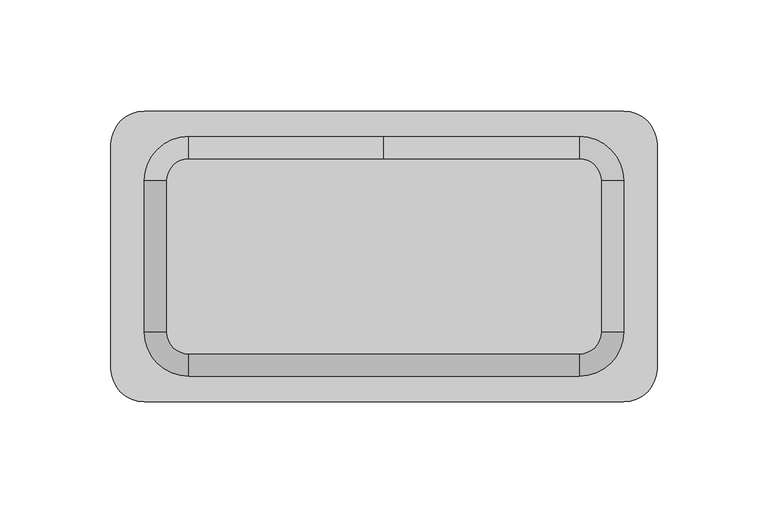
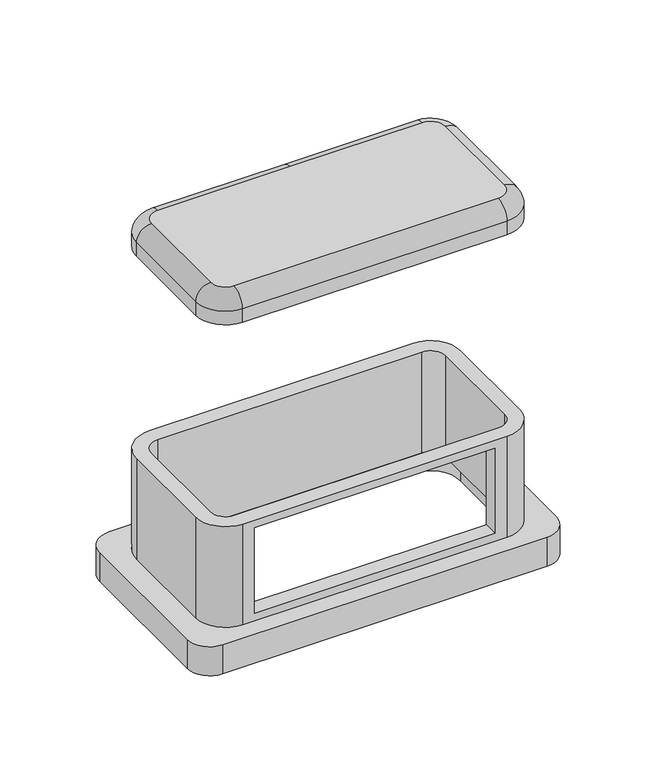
"""IFC4 building model written with IfcOpenShell, lengths in millimetres: proxy geometry, КНС_НапольнаяДвухсторонняяБашенкаBUS_ILF_DKC : Напольная двухсторонняя башенка BUS_ILF_DKC."""

from ifc_helpers import new_model, si_unit, point, frame, frame_2d, origin, origin_with_axes, place, context, project, spatial, polyline, circle_curve, ellipse_curve, trimmed, segment, composite_curve, outline, extrude, source, transform, mapped, element, save
from ifc_brep_helpers import plane_surface, cylinder_surface, revolved_surface, advanced_brep


def electrical_fixtures_5cea76de(model_context):
    return source(origin(), model_context, "Body", "SolidModel", [
        advanced_brep(
        [(88.0, 54.0, 91.5), (-88.0, 54.0, 91.5), (-108.0, 34.0, 91.5), (-108.0, -34.0, 91.5), (-88.0, -54.0, 91.5), (88.0, -54.0, 91.5), (108.0, -34.0, 91.5), (108.0, 34.0, 91.5), (88.0, 44.0, 91.5), (98.0, 34.0, 91.5), (98.0, -34.0, 91.5), (88.0, -44.0, 91.5), (-88.0, -44.0, 91.5), (-98.0, -34.0, 91.5), (-98.0, 34.0, 91.5), (-88.0, 44.0, 91.5), (88.0, 54.0, 20.5), (108.0, 34.0, 20.5), (108.0, -34.0, 20.5), (88.0, -54.0, 20.5), (-88.0, -54.0, 20.5), (-108.0, -34.0, 20.5), (-108.0, 34.0, 20.5), (-88.0, 54.0, 20.5), (88.0, 44.0, 20.5), (-88.0, 44.0, 20.5), (-98.0, 34.0, 20.5), (-98.0, -34.0, 20.5), (-88.0, -44.0, 20.5), (88.0, -44.0, 20.5), (98.0, -34.0, 20.5), (98.0, 34.0, 20.5), (-80.0, -54.0, 86.0), (80.0, -54.0, 86.0), (80.0, -54.0, 26.0), (-80.0, -54.0, 26.0), (80.0, -44.0, 86.0), (-80.0, -44.0, 86.0), (-80.0, -44.0, 26.0), (80.0, -44.0, 26.0)],
        [
            (0, 1),
            (1, 2, circle_curve(frame((-88.0, 34.0, 91.5), z_axis=(0.0, 0.0, 1.0), x_axis=(1.0, 0.0, 0.0)), 20.0)),
            (2, 3),
            (3, 4, circle_curve(frame((-88.0, -34.0, 91.5), z_axis=(0.0, 0.0, 1.0), x_axis=(1.0, 0.0, 0.0)), 20.0)),
            (4, 5),
            (5, 6, circle_curve(frame((88.0, -34.0, 91.5), z_axis=(0.0, 0.0, 1.0), x_axis=(1.0, 0.0, 0.0)), 20.0)),
            (6, 7),
            (7, 0, circle_curve(frame((88.0, 34.0, 91.5), z_axis=(0.0, 0.0, 1.0), x_axis=(1.0, 0.0, 0.0)), 20.0)),
            (8, 9, circle_curve(frame((88.0, 34.0, 91.5), z_axis=(0.0, 0.0, -1.0), x_axis=(1.0, 0.0, 0.0)), 10.0)),
            (9, 10),
            (10, 11, circle_curve(frame((88.0, -34.0, 91.5), z_axis=(0.0, 0.0, -1.0), x_axis=(1.0, 0.0, 0.0)), 10.0)),
            (11, 12),
            (12, 13, circle_curve(frame((-88.0, -34.0, 91.5), z_axis=(0.0, 0.0, -1.0), x_axis=(1.0, 0.0, 0.0)), 10.0)),
            (13, 14),
            (14, 15, circle_curve(frame((-88.0, 34.0, 91.5), z_axis=(0.0, 0.0, -1.0), x_axis=(1.0, 0.0, 0.0)), 10.0)),
            (15, 8),
            (16, 17, circle_curve(frame((88.0, 34.0, 20.5), z_axis=(0.0, 0.0, -1.0), x_axis=(1.0, 0.0, 0.0)), 20.0)),
            (17, 18),
            (18, 19, circle_curve(frame((88.0, -34.0, 20.5), z_axis=(0.0, 0.0, -1.0), x_axis=(1.0, 0.0, 0.0)), 20.0)),
            (19, 20),
            (20, 21, circle_curve(frame((-88.0, -34.0, 20.5), z_axis=(0.0, 0.0, -1.0), x_axis=(1.0, 0.0, 0.0)), 20.0)),
            (21, 22),
            (22, 23, circle_curve(frame((-88.0, 34.0, 20.5), z_axis=(0.0, 0.0, -1.0), x_axis=(1.0, 0.0, 0.0)), 20.0)),
            (23, 16),
            (24, 25),
            (25, 26, circle_curve(frame((-88.0, 34.0, 20.5), z_axis=(0.0, 0.0, 1.0), x_axis=(1.0, 0.0, 0.0)), 10.0)),
            (26, 27),
            (27, 28, circle_curve(frame((-88.0, -34.0, 20.5), z_axis=(0.0, 0.0, 1.0), x_axis=(1.0, 0.0, 0.0)), 10.0)),
            (28, 29),
            (29, 30, circle_curve(frame((88.0, -34.0, 20.5), z_axis=(0.0, 0.0, 1.0), x_axis=(1.0, 0.0, 0.0)), 10.0)),
            (30, 31),
            (31, 24, circle_curve(frame((88.0, 34.0, 20.5), z_axis=(0.0, 0.0, 1.0), x_axis=(1.0, 0.0, 0.0)), 10.0)),
            (0, 16),
            (23, 1),
            (22, 2),
            (21, 3),
            (20, 4),
            (19, 5),
            (32, 33),
            (33, 34),
            (34, 35),
            (35, 32),
            (18, 6),
            (17, 7),
            (8, 24),
            (31, 9),
            (30, 10),
            (29, 11),
            (28, 12),
            (36, 37),
            (37, 38),
            (38, 39),
            (39, 36),
            (27, 13),
            (26, 14),
            (25, 15),
            (32, 37),
            (36, 33),
            (35, 38),
            (34, 39),
        ],
        [
            plane_surface(frame((-108.0, 54.0, 91.5), z_axis=(0.0, 0.0, 1.0), x_axis=(-1.0, 0.0, 0.0))),
            plane_surface(frame((-108.0, 54.0, 20.5), z_axis=(0.0, 0.0, -1.0), x_axis=(1.0, 0.0, 0.0))),
            plane_surface(frame((88.0, 54.0, 91.5), z_axis=(0.0, 1.0, 0.0), x_axis=(0.0, 0.0, -1.0))),
            cylinder_surface(frame((-88.0, 34.0, 20.5), z_axis=(0.0, 0.0, 1.0), x_axis=(1.0, 0.0, 0.0)), 20.0),
            plane_surface(frame((-108.0, 34.0, 91.5), z_axis=(-1.0, 0.0, 0.0), x_axis=(0.0, 0.0, -1.0))),
            cylinder_surface(frame((-88.0, -34.0, 20.5), z_axis=(0.0, 0.0, 1.0), x_axis=(1.0, 0.0, 0.0)), 20.0),
            plane_surface(frame((-88.0, -54.0, 91.5), z_axis=(0.0, -1.0, 0.0), x_axis=(0.0, 0.0, -1.0))),
            cylinder_surface(frame((88.0, -34.0, 20.5), z_axis=(0.0, 0.0, 1.0), x_axis=(1.0, 0.0, 0.0)), 20.0),
            plane_surface(frame((108.0, -34.0, 91.5), z_axis=(1.0, 0.0, 0.0), x_axis=(0.0, 0.0, -1.0))),
            cylinder_surface(frame((88.0, 34.0, 20.5), z_axis=(0.0, 0.0, 1.0), x_axis=(1.0, 0.0, 0.0)), 20.0),
            revolved_surface(polyline([(98.0, 34.0, 20.5), (98.0, 34.0, 91.5)]), (88.0, 34.0, 20.5), (0.0, 0.0, -1.0)),
            plane_surface(frame((98.0, 34.0, 91.5), z_axis=(-1.0, 0.0, 0.0), x_axis=(0.0, 0.0, -1.0))),
            revolved_surface(polyline([(98.0, -34.0, 20.5), (98.0, -34.0, 91.5)]), (88.0, -34.0, 20.5), (0.0, 0.0, -1.0)),
            plane_surface(frame((88.0, -44.0, 91.5), z_axis=(0.0, 1.0, 0.0), x_axis=(0.0, 0.0, -1.0))),
            revolved_surface(polyline([(-78.0, -34.0, 20.5), (-78.0, -34.0, 91.5)]), (-88.0, -34.0, 20.5), (0.0, 0.0, -1.0)),
            plane_surface(frame((-98.0, -34.0, 91.5), z_axis=(1.0, 0.0, 0.0), x_axis=(0.0, 0.0, -1.0))),
            revolved_surface(polyline([(-78.0, 34.0, 20.5), (-78.0, 34.0, 91.5)]), (-88.0, 34.0, 20.5), (0.0, 0.0, -1.0)),
            plane_surface(frame((-88.0, 44.0, 91.5), z_axis=(0.0, -1.0, 0.0), x_axis=(0.0, 0.0, -1.0))),
            plane_surface(frame((80.0, -54.0, 86.0), z_axis=(0.0, 0.0, -1.0), x_axis=(0.0, 1.0, 0.0))),
            plane_surface(frame((-80.0, -54.0, 86.0), z_axis=(1.0, 0.0, 0.0), x_axis=(0.0, 1.0, 0.0))),
            plane_surface(frame((-80.0, -54.0, 26.0), z_axis=(0.0, 0.0, 1.0), x_axis=(0.0, 1.0, 0.0))),
            plane_surface(frame((80.0, -54.0, 26.0), z_axis=(-1.0, 0.0, 0.0), x_axis=(0.0, 1.0, 0.0))),
        ],
        [
            (0, [[1, 2, 3, 4, 5, 6, 7, 8], [9, 10, 11, 12, 13, 14, 15, 16]]),
            (1, [[17, 18, 19, 20, 21, 22, 23, 24], [25, 26, 27, 28, 29, 30, 31, 32]]),
            (2, [[-1, 33, -24, 34]]),
            (3, [[-2, -34, -23, 35]]),
            (4, [[-3, -35, -22, 36]]),
            (5, [[-4, -36, -21, 37]]),
            (6, [[-5, -37, -20, 38], [39, 40, 41, 42]]),
            (7, [[-6, -38, -19, 43]]),
            (8, [[-7, -43, -18, 44]]),
            (9, [[-8, -44, -17, -33]]),
            (10, [[-9, 45, -32, 46]]),
            (11, [[-10, -46, -31, 47]]),
            (12, [[-11, -47, -30, 48]]),
            (13, [[-12, -48, -29, 49], [50, 51, 52, 53]]),
            (14, [[-13, -49, -28, 54]]),
            (15, [[-14, -54, -27, 55]]),
            (16, [[-15, -55, -26, 56]]),
            (17, [[-16, -56, -25, -45]]),
            (18, [[57, -50, 58, -39]]),
            (19, [[-57, -42, 59, -51]]),
            (20, [[-59, -41, 60, -52]]),
            (21, [[-58, -53, -60, -40]]),
        ],
    ),
        advanced_brep(
        [(-108.0, 34.0, 243.0), (-108.0, 34.0, 233.5), (-108.0, -34.0, 233.5), (-108.0, -34.0, 243.0), (-98.0, -34.0, 253.0), (-98.0, 34.0, 253.0), (-88.0, -54.0, 243.0), (-88.0, -54.0, 233.5), (88.0, -54.0, 233.5), (88.0, -54.0, 243.0), (88.0, -44.0, 253.0), (-88.0, -44.0, 253.0), (108.0, -34.0, 243.0), (108.0, -34.0, 233.5), (108.0, 34.0, 233.5), (108.0, 34.0, 243.0), (98.0, 34.0, 253.0), (98.0, -34.0, 253.0), (88.0, 54.0, 243.0), (88.0, 54.0, 233.5), (-88.0, 54.0, 233.5), (-88.0, 54.0, 243.0), (0.0, 54.0, 243.0), (0.0, 44.0, 253.0), (88.0, 44.0, 253.0), (-88.0, 44.0, 253.0)],
        [
            (0, 1),
            (1, 2),
            (2, 3),
            (3, 0),
            (3, 4, circle_curve(frame((-98.0, -34.0, 243.0), z_axis=(0.0, 1.0, 0.0), x_axis=(1.0, 0.0, 0.0)), 10.0)),
            (4, 5),
            (5, 0, circle_curve(frame((-98.0, 34.0, 243.0), z_axis=(0.0, -1.0, 0.0), x_axis=(1.0, 0.0, 0.0)), 10.0)),
            (6, 7),
            (7, 8),
            (8, 9),
            (9, 6),
            (9, 10, circle_curve(frame((88.0, -44.0, 243.0), z_axis=(-1.0, 0.0, 0.0), x_axis=(0.0, 1.0, 0.0)), 10.0)),
            (10, 11),
            (11, 6, circle_curve(frame((-88.0, -44.0, 243.0), z_axis=(1.0, 0.0, 0.0), x_axis=(0.0, 1.0, 0.0)), 10.0)),
            (12, 13),
            (13, 14),
            (14, 15),
            (15, 12),
            (15, 16, circle_curve(frame((98.0, 34.0, 243.0), z_axis=(0.0, -1.0, 0.0), x_axis=(-1.0, 0.0, 0.0)), 10.0)),
            (16, 17),
            (17, 12, circle_curve(frame((98.0, -34.0, 243.0), z_axis=(0.0, 1.0, 0.0), x_axis=(-1.0, 0.0, 0.0)), 10.0)),
            (18, 19),
            (19, 20),
            (20, 21),
            (21, 22),
            (22, 18),
            (22, 23, circle_curve(frame((0.0, 44.0, 243.0), z_axis=(1.0, 0.0, 0.0), x_axis=(0.0, -1.0, 0.0)), 10.0)),
            (23, 24),
            (24, 18, circle_curve(frame((88.0, 44.0, 243.0), z_axis=(-1.0, 0.0, 0.0), x_axis=(0.0, -1.0, 0.0)), 10.0)),
            (21, 25, circle_curve(frame((-88.0, 44.0, 243.0), z_axis=(1.0, 0.0, 0.0), x_axis=(0.0, -1.0, 0.0)), 10.0)),
            (25, 23),
            (0, 21, circle_curve(frame((-88.0, 34.0, 243.0), z_axis=(0.0, 0.0, -1.0), x_axis=(0.0, 1.0, 0.0)), 20.0)),
            (20, 1, circle_curve(frame((-88.0, 34.0, 233.5), z_axis=(0.0, 0.0, 1.0), x_axis=(0.0, 1.0, 0.0)), 20.0)),
            (5, 25, circle_curve(frame((-88.0, 34.0, 253.0), z_axis=(0.0, 0.0, -1.0), x_axis=(0.0, 1.0, 0.0)), 10.0)),
            (2, 7, circle_curve(frame((-88.0, -34.0, 233.5), z_axis=(0.0, 0.0, 1.0), x_axis=(-1.0, 0.0, 0.0)), 20.0)),
            (6, 3, circle_curve(frame((-88.0, -34.0, 243.0), z_axis=(0.0, 0.0, -1.0), x_axis=(-1.0, 0.0, 0.0)), 20.0)),
            (11, 4, circle_curve(frame((-88.0, -34.0, 253.0), z_axis=(0.0, 0.0, -1.0), x_axis=(-1.0, 0.0, 0.0)), 10.0)),
            (8, 13, circle_curve(frame((88.0, -34.0, 233.5), z_axis=(0.0, 0.0, 1.0), x_axis=(0.0, -1.0, 0.0)), 20.0)),
            (12, 9, circle_curve(frame((88.0, -34.0, 243.0), z_axis=(0.0, 0.0, -1.0), x_axis=(0.0, -1.0, 0.0)), 20.0)),
            (17, 10, circle_curve(frame((88.0, -34.0, 253.0), z_axis=(0.0, 0.0, -1.0), x_axis=(0.0, -1.0, 0.0)), 10.0)),
            (14, 19, circle_curve(frame((88.0, 34.0, 233.5), z_axis=(0.0, 0.0, 1.0), x_axis=(1.0, 0.0, 0.0)), 20.0)),
            (18, 15, circle_curve(frame((88.0, 34.0, 243.0), z_axis=(0.0, 0.0, -1.0), x_axis=(1.0, 0.0, 0.0)), 20.0)),
            (24, 16, circle_curve(frame((88.0, 34.0, 253.0), z_axis=(0.0, 0.0, -1.0), x_axis=(1.0, 0.0, 0.0)), 10.0)),
        ],
        [
            plane_surface(frame((-108.0, 34.0, 233.5), z_axis=(-1.0, 0.0, 0.0), x_axis=(0.0, -1.0, 0.0))),
            cylinder_surface(frame((-98.0, 34.0, 243.0), z_axis=(0.0, 1.0, 0.0), x_axis=(1.0, 0.0, 0.0)), 10.0),
            plane_surface(frame((-88.0, -54.0, 233.5), z_axis=(0.0, -1.0, 0.0), x_axis=(1.0, 0.0, 0.0))),
            cylinder_surface(frame((-88.0, -44.0, 243.0), z_axis=(-1.0, 0.0, 0.0), x_axis=(0.0, 1.0, 0.0)), 10.0),
            plane_surface(frame((108.0, -34.0, 233.5), z_axis=(1.0, 0.0, 0.0), x_axis=(0.0, 1.0, 0.0))),
            cylinder_surface(frame((98.0, -34.0, 243.0), z_axis=(0.0, -1.0, 0.0), x_axis=(-1.0, 0.0, 0.0)), 10.0),
            plane_surface(frame((88.0, 54.0, 233.5), z_axis=(0.0, 1.0, 0.0), x_axis=(-1.0, 0.0, 0.0))),
            cylinder_surface(frame((88.0, 44.0, 243.0), z_axis=(1.0, 0.0, 0.0), x_axis=(0.0, -1.0, 0.0)), 10.0),
            cylinder_surface(frame((0.0, 44.0, 243.0), z_axis=(1.0, 0.0, 0.0), x_axis=(0.0, -1.0, 0.0)), 10.0),
            cylinder_surface(frame((-88.0, 34.0, 0.0), z_axis=(0.0, 0.0, 1.0), x_axis=(0.0, 1.0, 0.0)), 20.0),
            revolved_surface(trimmed(ellipse_curve(frame((-88.0, 44.0, 243.0), z_axis=(1.0, 0.0, 0.0), x_axis=(0.0, -1.0, 0.0)), 10.0, 10.0), [point((-88.0, 54.0, 243.0))], [point((-88.0, 44.0, 253.0))], True, "CARTESIAN"), (-88.0, 34.0, 0.0), (0.0, 0.0, 1.0)),
            cylinder_surface(frame((-88.0, -34.0, 0.0), z_axis=(0.0, 0.0, 1.0), x_axis=(-1.0, 0.0, 0.0)), 20.0),
            revolved_surface(trimmed(ellipse_curve(frame((-98.0, -34.0, 243.0), z_axis=(0.0, 1.0, 0.0), x_axis=(1.0, 0.0, 0.0)), 10.0, 10.0), [point((-108.0, -34.0, 243.0))], [point((-98.0, -34.0, 253.0))], True, "CARTESIAN"), (-88.0, -34.0, 0.0), (0.0, 0.0, 1.0)),
            cylinder_surface(frame((88.0, -34.0, 0.0), z_axis=(0.0, 0.0, 1.0), x_axis=(0.0, -1.0, 0.0)), 20.0),
            revolved_surface(trimmed(ellipse_curve(frame((88.0, -44.0, 243.0), z_axis=(-1.0, 0.0, 0.0), x_axis=(0.0, 1.0, 0.0)), 10.0, 10.0), [point((88.0, -54.0, 243.0))], [point((88.0, -44.0, 253.0))], True, "CARTESIAN"), (88.0, -34.0, 0.0), (0.0, 0.0, 1.0)),
            cylinder_surface(frame((88.0, 34.0, 0.0), z_axis=(0.0, 0.0, 1.0), x_axis=(1.0, 0.0, 0.0)), 20.0),
            revolved_surface(trimmed(ellipse_curve(frame((98.0, 34.0, 243.0), z_axis=(0.0, -1.0, 0.0), x_axis=(-1.0, 0.0, 0.0)), 10.0, 10.0), [point((108.0, 34.0, 243.0))], [point((98.0, 34.0, 253.0))], True, "CARTESIAN"), (88.0, 34.0, 0.0), (0.0, 0.0, 1.0)),
            plane_surface(frame((88.0, 34.0, 233.5), z_axis=(0.0, 0.0, -1.0), x_axis=(1.0, 0.0, 0.0))),
            plane_surface(frame((-78.0, 34.0, 253.0), z_axis=(0.0, 0.0, 1.0), x_axis=(0.0, 1.0, 0.0))),
        ],
        [
            (0, [[1, 2, 3, 4]]),
            (1, [[-4, 5, 6, 7]]),
            (2, [[8, 9, 10, 11]]),
            (3, [[-11, 12, 13, 14]]),
            (4, [[15, 16, 17, 18]]),
            (5, [[-18, 19, 20, 21]]),
            (6, [[22, 23, 24, 25, 26]]),
            (7, [[-26, 27, 28, 29]]),
            (8, [[-25, 30, 31, -27]]),
            (9, [[-1, 32, -24, 33]]),
            (10, [[-7, 34, -30, -32]]),
            (11, [[-3, 35, -8, 36]]),
            (12, [[-5, -36, -14, 37]]),
            (13, [[-10, 38, -15, 39]]),
            (14, [[-12, -39, -21, 40]]),
            (15, [[-17, 41, -22, 42]]),
            (16, [[-19, -42, -29, 43]]),
            (17, [[-2, -33, -23, -41, -16, -38, -9, -35]]),
            (18, [[-6, -37, -13, -40, -20, -43, -28, -31, -34]]),
        ],
    ),
        extrude(outline(composite_curve([segment(trimmed(circle_curve(frame_2d((108.0, 50.5)), 15.0), [point((108.0, 65.5))], [point((123.0, 50.5))], False, "CARTESIAN"), True, "CONTINUOUS"), segment(polyline([(123.0, 50.5), (123.0, -50.5)]), True, "CONTINUOUS"), segment(trimmed(circle_curve(frame_2d((108.0, -50.5)), 15.0), [point((123.0, -50.5))], [point((108.0, -65.5))], False, "CARTESIAN"), True, "CONTINUOUS"), segment(polyline([(108.0, -65.5), (-108.0, -65.5)]), True, "CONTINUOUS"), segment(trimmed(circle_curve(frame_2d((-108.0, -50.5)), 15.0), [point((-108.0, -65.5))], [point((-123.0, -50.5))], False, "CARTESIAN"), True, "CONTINUOUS"), segment(polyline([(-123.0, -50.5), (-123.0, 50.5)]), True, "CONTINUOUS"), segment(trimmed(circle_curve(frame_2d((-108.0, 50.5)), 15.0), [point((-123.0, 50.5))], [point((-108.0, 65.5))], False, "CARTESIAN"), True, "CONTINUOUS"), segment(polyline([(-108.0, 65.5), (108.0, 65.5)]), True, "CONTINUOUS")], self_intersect=False), holes=[composite_curve([segment(polyline([(88.0, 54.0), (-88.0, 54.0)]), True, "CONTINUOUS"), segment(trimmed(circle_curve(frame_2d((-88.0, 34.0)), 20.0), [point((-88.0, 54.0))], [point((-108.0, 34.0))], True, "CARTESIAN"), True, "CONTINUOUS"), segment(polyline([(-108.0, 34.0), (-108.0, -34.0)]), True, "CONTINUOUS"), segment(trimmed(circle_curve(frame_2d((-88.0, -34.0)), 20.0), [point((-108.0, -34.0))], [point((-88.0, -54.0))], True, "CARTESIAN"), True, "CONTINUOUS"), segment(polyline([(-88.0, -54.0), (88.0, -54.0)]), True, "CONTINUOUS"), segment(trimmed(circle_curve(frame_2d((88.0, -34.0)), 20.0), [point((88.0, -54.0))], [point((108.0, -34.0))], True, "CARTESIAN"), True, "CONTINUOUS"), segment(polyline([(108.0, -34.0), (108.0, 34.0)]), True, "CONTINUOUS"), segment(trimmed(circle_curve(frame_2d((88.0, 34.0)), 20.0), [point((108.0, 34.0))], [point((88.0, 54.0))], True, "CARTESIAN"), True, "CONTINUOUS")], self_intersect=False)]), origin_with_axes(), (0.0, 0.0, 1.0), 20.5),
    ])


if __name__ == "__main__":
    model = new_model("IFC4")
    model_context = context("Model", 3, world=origin())
    ifc_project = project(units=[si_unit("LENGTHUNIT", "METRE", prefix="MILLI")], contexts=[model_context])
    site = spatial("IfcSite", under=ifc_project)
    building = spatial("IfcBuilding", under=site)
    placement = place(None, origin())
    electrical_fixtures_shape = electrical_fixtures_5cea76de(model_context)
    element("IfcBuildingElementProxy", 1, Name="КНС_НапольнаяДвухсторонняяБашенкаBUS_ILF_DKC : Напольная двухсторонняя башенка BUS_ILF_DKC", ObjectType="КНС_НапольнаяДвухсторонняяБашенкаBUS_ILF_DKC : Напольная двухсторонняя башенка BUS_ILF_DKC", at=placement, inside=building, context=model_context, shape_type="MappedRepresentation", body=[
        mapped(electrical_fixtures_shape, transform((0.0, 0.0, 0.0), x_axis=(1.0, 0.0, 0.0), y_axis=(0.0, 1.0, 0.0), z_axis=(0.0, 0.0, 1.0))),
    ])
    save(model, "model.ifc")
